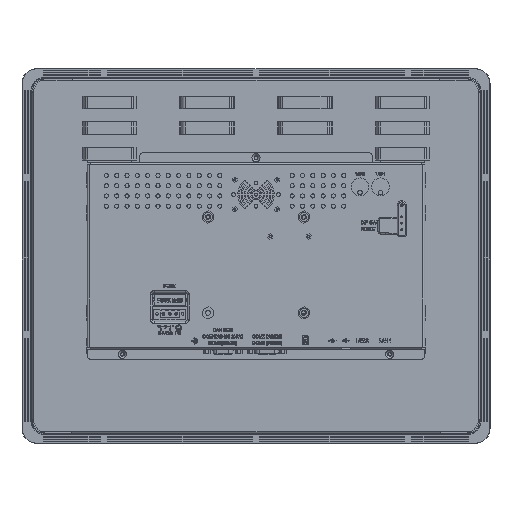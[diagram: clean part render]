
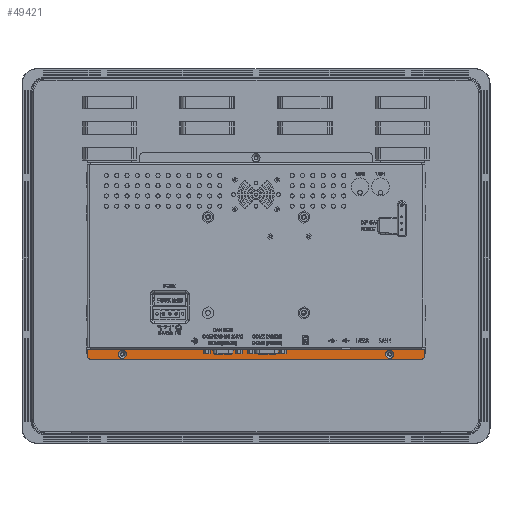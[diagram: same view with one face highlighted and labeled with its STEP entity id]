
A CAD part, top view. The second image highlights one B-rep face of the part: STEP entity #49421.
In plain terms, the highlighted planar face has unit normal (0, 0, 1).
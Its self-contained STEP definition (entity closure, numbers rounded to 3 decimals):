
#7223 = CARTESIAN_POINT ( 'NONE',  ( -104.5, -73.731, 22.68 ) ) ;
#7262 = CARTESIAN_POINT ( 'NONE',  ( -104.5, -80.031, 22.68 ) ) ;
#7437 = CARTESIAN_POINT ( 'NONE',  ( 104.5, -73.731, 22.68 ) ) ;
#7439 = CARTESIAN_POINT ( 'NONE',  ( 104.5, -80.031, 22.68 ) ) ;
#14268 = CARTESIAN_POINT ( 'NONE',  ( 132., -77.881, 22.68 ) ) ;
#14277 = CARTESIAN_POINT ( 'NONE',  ( 132., -72.881, 22.68 ) ) ;
#14278 = CARTESIAN_POINT ( 'NONE',  ( 129., -80.881, 22.68 ) ) ;
#14281 = CARTESIAN_POINT ( 'NONE',  ( -132., -72.881, 22.68 ) ) ;
#14284 = CARTESIAN_POINT ( 'NONE',  ( -132., -77.881, 22.68 ) ) ;
#14294 = CARTESIAN_POINT ( 'NONE',  ( -129., -80.881, 22.68 ) ) ;
#27712 = AXIS2_PLACEMENT_3D ( 'NONE', #29002, #28998, #29017 ) ;
#28998 = DIRECTION ( 'NONE',  ( 0., 0., 1. ) ) ;
#29002 = CARTESIAN_POINT ( 'NONE',  ( -129., -77.881, 22.68 ) ) ;
#29004 = FACE_BOUND ( 'NONE', #83089, .T. ) ;
#29008 = FACE_BOUND ( 'NONE', #83104, .T. ) ;
#29011 = FACE_OUTER_BOUND ( 'NONE', #83102, .T. ) ;
#29013 = PLANE ( 'NONE',  #27712 ) ;
#29017 = DIRECTION ( 'NONE',  ( 0., -1., 0. ) ) ;
#36632 = VERTEX_POINT ( 'NONE', #7223 ) ;
#36699 = VERTEX_POINT ( 'NONE', #7262 ) ;
#37011 = VERTEX_POINT ( 'NONE', #7437 ) ;
#37014 = VERTEX_POINT ( 'NONE', #7439 ) ;
#44519 = VERTEX_POINT ( 'NONE', #14268 ) ;
#44537 = VERTEX_POINT ( 'NONE', #14277 ) ;
#44539 = VERTEX_POINT ( 'NONE', #14278 ) ;
#44545 = VERTEX_POINT ( 'NONE', #14281 ) ;
#44551 = VERTEX_POINT ( 'NONE', #14284 ) ;
#44571 = VERTEX_POINT ( 'NONE', #14294 ) ;
#49421 = ADVANCED_FACE ( 'NONE', ( #29004, #29008, #29011 ), #29013, .T. ) ;
#59687 = ORIENTED_EDGE ( 'NONE', *, *, #61356, .F. ) ;
#59688 = ORIENTED_EDGE ( 'NONE', *, *, #63000, .F. ) ;
#59689 = ORIENTED_EDGE ( 'NONE', *, *, #61353, .F. ) ;
#59690 = ORIENTED_EDGE ( 'NONE', *, *, #63018, .F. ) ;
#59691 = ORIENTED_EDGE ( 'NONE', *, *, #61346, .F. ) ;
#59692 = ORIENTED_EDGE ( 'NONE', *, *, #61358, .F. ) ;
#59693 = ORIENTED_EDGE ( 'NONE', *, *, #61359, .F. ) ;
#59694 = ORIENTED_EDGE ( 'NONE', *, *, #61325, .F. ) ;
#59695 = ORIENTED_EDGE ( 'NONE', *, *, #61334, .F. ) ;
#59696 = ORIENTED_EDGE ( 'NONE', *, *, #61340, .F. ) ;
#60819 = CIRCLE ( 'NONE', #60824, 3. ) ;
#60824 = AXIS2_PLACEMENT_3D ( 'NONE', #63984, #63985, #63986 ) ;
#60828 = VECTOR ( 'NONE', #63996, 1000. ) ;
#60831 = CIRCLE ( 'NONE', #60833, 3. ) ;
#60832 = CIRCLE ( 'NONE', #60842, 3.15 ) ;
#60833 = AXIS2_PLACEMENT_3D ( 'NONE', #64004, #64005, #64006 ) ;
#60836 = VECTOR ( 'NONE', #64013, 1000. ) ;
#60839 = CIRCLE ( 'NONE', #60846, 3.15 ) ;
#60842 = AXIS2_PLACEMENT_3D ( 'NONE', #64021, #64022, #64023 ) ;
#60845 = VECTOR ( 'NONE', #64033, 1000. ) ;
#60846 = AXIS2_PLACEMENT_3D ( 'NONE', #64030, #64031, #64032 ) ;
#60847 = VECTOR ( 'NONE', #64036, 1000. ) ;
#61325 = EDGE_CURVE ( 'NONE', #44571, #44551, #60819, .T. ) ;
#61334 = EDGE_CURVE ( 'NONE', #44539, #44571, #63994, .T. ) ;
#61340 = EDGE_CURVE ( 'NONE', #44519, #44539, #60831, .T. ) ;
#61346 = EDGE_CURVE ( 'NONE', #44537, #44519, #64011, .T. ) ;
#61353 = EDGE_CURVE ( 'NONE', #37014, #37011, #60832, .T. ) ;
#61356 = EDGE_CURVE ( 'NONE', #36699, #36632, #60839, .T. ) ;
#61358 = EDGE_CURVE ( 'NONE', #44545, #44537, #64017, .T. ) ;
#61359 = EDGE_CURVE ( 'NONE', #44551, #44545, #64034, .T. ) ;
#63000 = EDGE_CURVE ( 'NONE', #36632, #36699, #67003, .T. ) ;
#63018 = EDGE_CURVE ( 'NONE', #37011, #37014, #67013, .T. ) ;
#63984 = CARTESIAN_POINT ( 'NONE',  ( -129., -77.881, 22.68 ) ) ;
#63985 = DIRECTION ( 'NONE',  ( 0., 0., -1. ) ) ;
#63986 = DIRECTION ( 'NONE',  ( 0., -1., 0. ) ) ;
#63994 = LINE ( 'NONE', #63995, #60828 ) ;
#63995 = CARTESIAN_POINT ( 'NONE',  ( -129., -80.881, 22.68 ) ) ;
#63996 = DIRECTION ( 'NONE',  ( -1., 0., 0. ) ) ;
#64004 = CARTESIAN_POINT ( 'NONE',  ( 129., -77.881, 22.68 ) ) ;
#64005 = DIRECTION ( 'NONE',  ( 0., 0., -1. ) ) ;
#64006 = DIRECTION ( 'NONE',  ( 0., -1., 0. ) ) ;
#64011 = LINE ( 'NONE', #64012, #60836 ) ;
#64012 = CARTESIAN_POINT ( 'NONE',  ( 132., -77.881, 22.68 ) ) ;
#64013 = DIRECTION ( 'NONE',  ( 0., -1., 0. ) ) ;
#64017 = LINE ( 'NONE', #64024, #60845 ) ;
#64021 = CARTESIAN_POINT ( 'NONE',  ( 104.5, -76.881, 22.68 ) ) ;
#64022 = DIRECTION ( 'NONE',  ( 0., 0., 1. ) ) ;
#64023 = DIRECTION ( 'NONE',  ( 0., -1., 0. ) ) ;
#64024 = CARTESIAN_POINT ( 'NONE',  ( 132., -72.881, 22.68 ) ) ;
#64030 = CARTESIAN_POINT ( 'NONE',  ( -104.5, -76.881, 22.68 ) ) ;
#64031 = DIRECTION ( 'NONE',  ( 0., 0., 1. ) ) ;
#64032 = DIRECTION ( 'NONE',  ( 0., -1., 0. ) ) ;
#64033 = DIRECTION ( 'NONE',  ( 1., 0., 0. ) ) ;
#64034 = LINE ( 'NONE', #64035, #60847 ) ;
#64035 = CARTESIAN_POINT ( 'NONE',  ( -132., -72.881, 22.68 ) ) ;
#64036 = DIRECTION ( 'NONE',  ( 0., 1., 0. ) ) ;
#66962 = CARTESIAN_POINT ( 'NONE',  ( -104.5, -76.881, 22.68 ) ) ;
#66963 = DIRECTION ( 'NONE',  ( 0., 0., 1. ) ) ;
#66964 = DIRECTION ( 'NONE',  ( 0., -1., 0. ) ) ;
#67003 = CIRCLE ( 'NONE', #67005, 3.15 ) ;
#67005 = AXIS2_PLACEMENT_3D ( 'NONE', #66962, #66963, #66964 ) ;
#67013 = CIRCLE ( 'NONE', #67016, 3.15 ) ;
#67016 = AXIS2_PLACEMENT_3D ( 'NONE', #67593, #67594, #67595 ) ;
#67593 = CARTESIAN_POINT ( 'NONE',  ( 104.5, -76.881, 22.68 ) ) ;
#67594 = DIRECTION ( 'NONE',  ( 0., 0., 1. ) ) ;
#67595 = DIRECTION ( 'NONE',  ( 0., -1., 0. ) ) ;
#83089 = EDGE_LOOP ( 'NONE', ( #59687, #59688 ) ) ;
#83102 = EDGE_LOOP ( 'NONE', ( #59691, #59692, #59693, #59694, #59695, #59696 ) ) ;
#83104 = EDGE_LOOP ( 'NONE', ( #59689, #59690 ) ) ;
